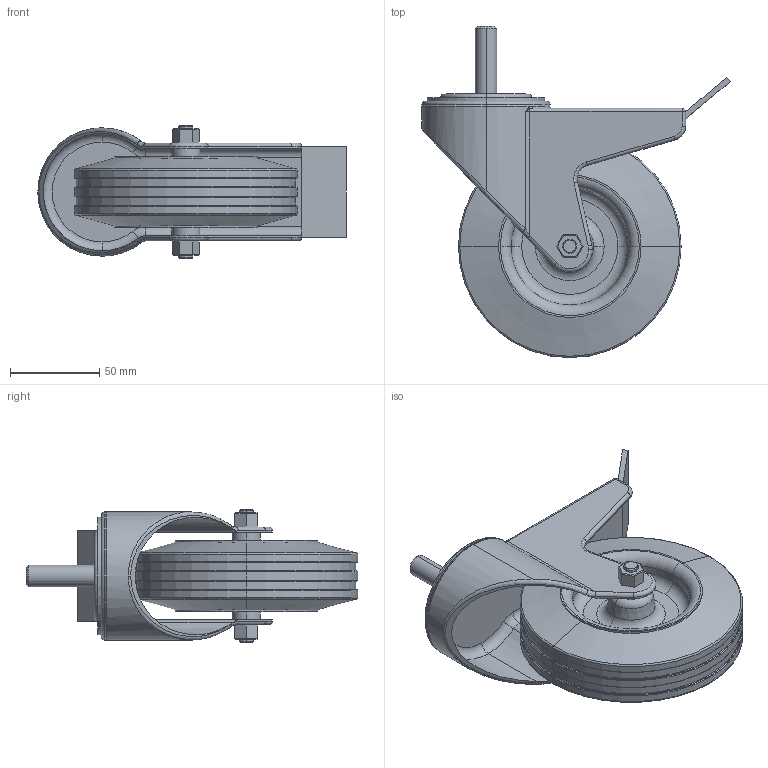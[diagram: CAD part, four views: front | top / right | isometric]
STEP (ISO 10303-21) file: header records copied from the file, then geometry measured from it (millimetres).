
FILE_DESCRIPTION (( 'STEP AP214' ), '1' );
FILE_NAME ('A49 125 M12.step', '2017-04-05T07:53:12', ( '' ), ( '' ), 'SwSTEP 2.0', 'SolidWorks 2015', '' );
FILE_SCHEMA (( 'AUTOMOTIVE_DESIGN' ));
Length unit declared in the file: millimetre
Products named in the file (1): A49 125 M12
Bounding box: 172.97 x 185.97 x 75 mm (x, y, z)
Volume: 460265.8 mm3; surface area: 92817.5 mm2
Topology: 1 solids, 1 shells, 209 faces, 458 edges, 266 vertices
Faces by surface type: cylinder 63, plane 62, torus 60, cone 14, bspline 8, sphere 2
Entity records: 6786 total; most frequent: CARTESIAN_POINT 1237, DIRECTION 1085, ORIENTED_EDGE 908, AXIS2_PLACEMENT_3D 454, EDGE_CURVE 454, VERTEX_POINT 266, CIRCLE 252, EDGE_LOOP 230
